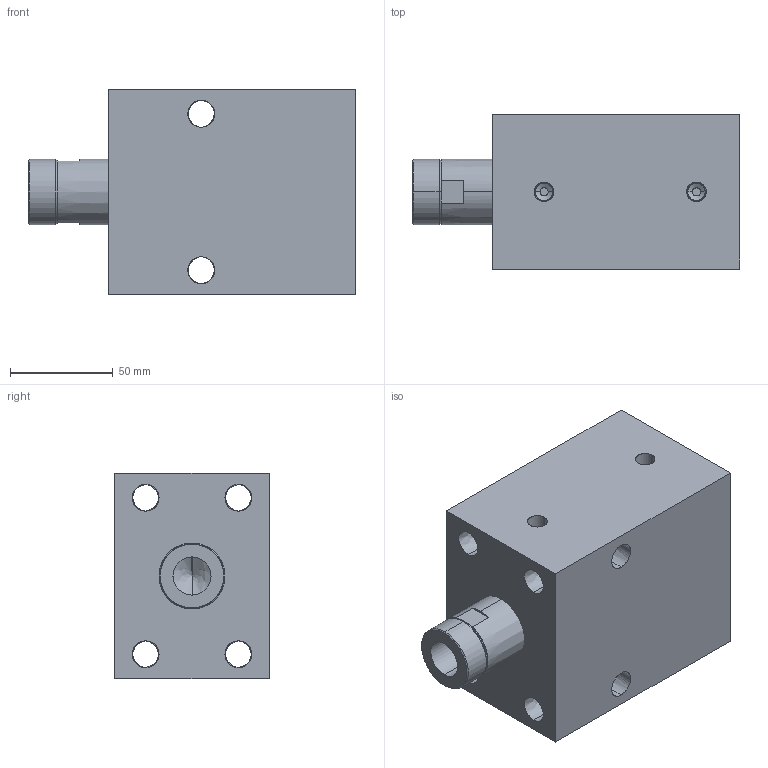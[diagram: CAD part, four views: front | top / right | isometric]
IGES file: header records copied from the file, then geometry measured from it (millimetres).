
Start section: SolidWorks IGES file using analytic representation for surfaces
Global section: file name: C:\Documents and Settings\rajib\Desktop\Rajib\BLOCK CYLINDER HYDRAULIC\0501-0506\IGS 0501-0508\0502.IGS; native system: SolidWorks 2007; preprocessor: SolidWorks 2007; author: rajib; date: 110121.103800; units: millimetre
Bounding box: 159 x 75 x 100 mm (x, y, z)
Surface area: 94353.2 mm2 (no closed solid volume)
Topology: 0 solids, 0 shells, 80 faces, 1872 edges, 1870 vertices
Faces by surface type: revolution 58, bspline 22
